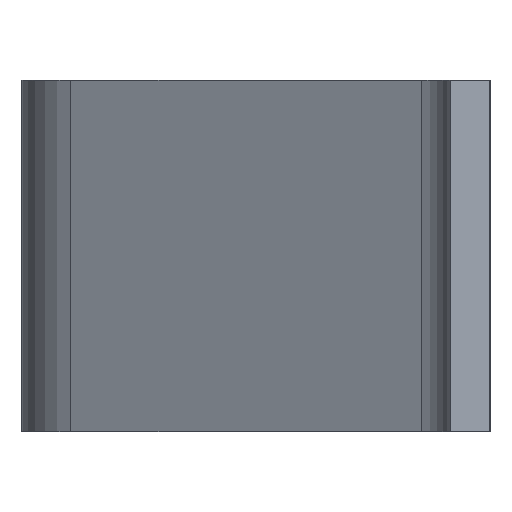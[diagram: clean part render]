
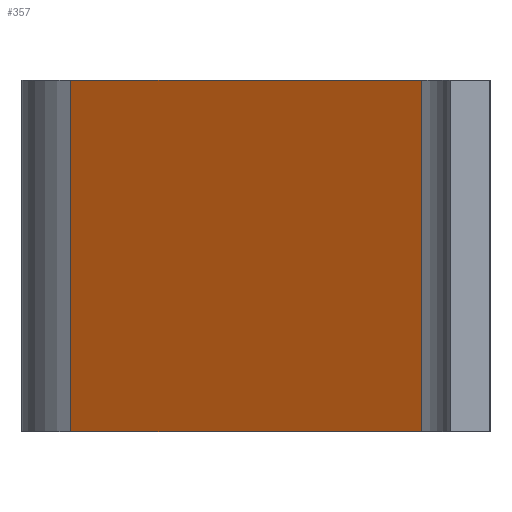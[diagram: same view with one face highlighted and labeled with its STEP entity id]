
A CAD part, left-side view. The second image highlights one B-rep face of the part: STEP entity #357.
In plain terms, the highlighted planar face has unit normal (-0.866, 0.5, 0).
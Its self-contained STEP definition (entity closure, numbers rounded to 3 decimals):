
#20 = DIRECTION ( 'NONE',  ( 0.5, 0.866, 0. ) ) ;
#24 = CARTESIAN_POINT ( 'NONE',  ( 111.443, 12.5, 90. ) ) ;
#25 = DIRECTION ( 'NONE',  ( -0.5, -0.866, 0. ) ) ;
#49 = LINE ( 'NONE', #300, #478 ) ;
#95 = CARTESIAN_POINT ( 'NONE',  ( 111.443, 12.5, 90. ) ) ;
#99 = ORIENTED_EDGE ( 'NONE', *, *, #393, .F. ) ;
#105 = VERTEX_POINT ( 'NONE', #257 ) ;
#106 = ORIENTED_EDGE ( 'NONE', *, *, #373, .F. ) ;
#109 = ORIENTED_EDGE ( 'NONE', *, *, #377, .T. ) ;
#118 = CARTESIAN_POINT ( 'NONE',  ( 163.405, 102.5, 0. ) ) ;
#130 = PLANE ( 'NONE',  #443 ) ;
#139 = VERTEX_POINT ( 'NONE', #118 ) ;
#140 = LINE ( 'NONE', #24, #432 ) ;
#147 = ORIENTED_EDGE ( 'NONE', *, *, #394, .T. ) ;
#204 = VERTEX_POINT ( 'NONE', #287 ) ;
#214 = EDGE_LOOP ( 'NONE', ( #106, #99, #109, #147 ) ) ;
#237 = VERTEX_POINT ( 'NONE', #95 ) ;
#249 = DIRECTION ( 'NONE',  ( 0.5, 0.866, 0. ) ) ;
#257 = CARTESIAN_POINT ( 'NONE',  ( 111.443, 12.5, 0. ) ) ;
#265 = FACE_OUTER_BOUND ( 'NONE', #214, .T. ) ;
#287 = CARTESIAN_POINT ( 'NONE',  ( 163.405, 102.5, 90. ) ) ;
#300 = CARTESIAN_POINT ( 'NONE',  ( 111.443, 12.5, 0. ) ) ;
#304 = DIRECTION ( 'NONE',  ( -0.866, 0.5, 0. ) ) ;
#332 = CARTESIAN_POINT ( 'NONE',  ( 111.443, 12.5, 90. ) ) ;
#357 = ADVANCED_FACE ( 'NONE', ( #265 ), #130, .T. ) ;
#373 = EDGE_CURVE ( 'NONE', #105, #139, #49, .T. ) ;
#377 = EDGE_CURVE ( 'NONE', #237, #204, #140, .T. ) ;
#393 = EDGE_CURVE ( 'NONE', #237, #105, #521, .T. ) ;
#394 = EDGE_CURVE ( 'NONE', #204, #139, #563, .T. ) ;
#429 = VECTOR ( 'NONE', #548, 1000. ) ;
#432 = VECTOR ( 'NONE', #249, 1000. ) ;
#443 = AXIS2_PLACEMENT_3D ( 'NONE', #332, #304, #25 ) ;
#473 = VECTOR ( 'NONE', #569, 1000. ) ;
#478 = VECTOR ( 'NONE', #20, 1000. ) ;
#517 = CARTESIAN_POINT ( 'NONE',  ( 163.405, 102.5, 90. ) ) ;
#521 = LINE ( 'NONE', #560, #473 ) ;
#548 = DIRECTION ( 'NONE',  ( 0., 0., -1. ) ) ;
#560 = CARTESIAN_POINT ( 'NONE',  ( 111.443, 12.5, 90. ) ) ;
#563 = LINE ( 'NONE', #517, #429 ) ;
#569 = DIRECTION ( 'NONE',  ( 0., 0., -1. ) ) ;
